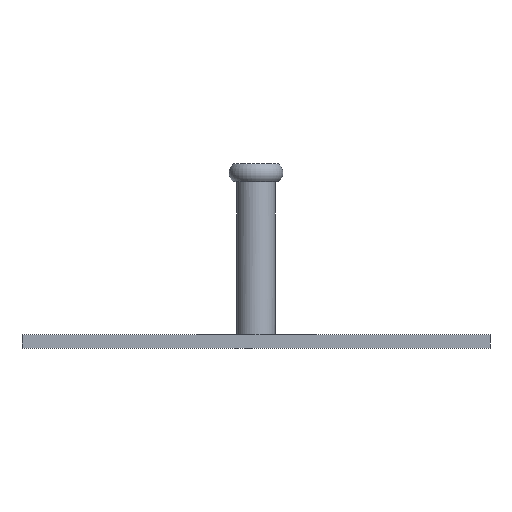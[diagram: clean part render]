
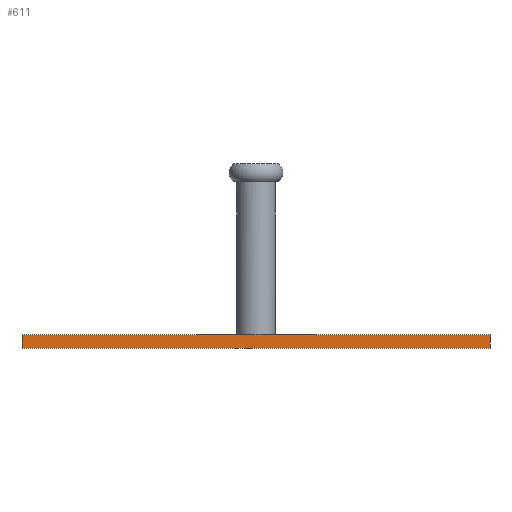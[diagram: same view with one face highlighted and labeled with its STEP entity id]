
A CAD part, front view. The second image highlights one B-rep face of the part: STEP entity #611.
In plain terms, the highlighted planar face has unit normal (0, -1, 0).
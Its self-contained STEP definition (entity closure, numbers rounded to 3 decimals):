
#328=LINE('',#1775,#356);
#333=LINE('',#2143,#361);
#334=LINE('',#2145,#362);
#356=VECTOR('',#1592,1.);
#361=VECTOR('',#1599,1.);
#362=VECTOR('',#1602,1.);
#470=B_SPLINE_CURVE_WITH_KNOTS('',1,(#2147,#2148),.UNSPECIFIED.,.F.,.F.,
(2,2),(0.,1.),.UNSPECIFIED.);
#611=ADVANCED_FACE('',(#661),#637,.T.);
#637=PLANE('',#1546);
#661=FACE_OUTER_BOUND('',#700,.T.);
#700=EDGE_LOOP('',(#833,#834,#835,#836));
#833=ORIENTED_EDGE('',*,*,#1408,.T.);
#834=ORIENTED_EDGE('',*,*,#1342,.T.);
#835=ORIENTED_EDGE('',*,*,#1409,.F.);
#836=ORIENTED_EDGE('',*,*,#1410,.F.);
#1150=VERTEX_POINT('',#1776);
#1151=VERTEX_POINT('',#1777);
#1215=VERTEX_POINT('',#2141);
#1216=VERTEX_POINT('',#2146);
#1342=EDGE_CURVE('',#1150,#1151,#328,.T.);
#1408=EDGE_CURVE('',#1215,#1150,#333,.T.);
#1409=EDGE_CURVE('',#1216,#1151,#334,.T.);
#1410=EDGE_CURVE('',#1215,#1216,#470,.T.);
#1546=AXIS2_PLACEMENT_3D('',#2149,#1603,#1604);
#1592=DIRECTION('',(1.,0.,0.));
#1599=DIRECTION('',(0.,0.,-1.));
#1602=DIRECTION('',(0.,0.,-1.));
#1603=DIRECTION('',(0.,-1.,0.));
#1604=DIRECTION('',(0.,0.,1.));
#1775=CARTESIAN_POINT('',(0.,-39.655,9.425));
#1776=CARTESIAN_POINT('',(-52.05,-39.655,9.425));
#1777=CARTESIAN_POINT('',(52.05,-39.655,9.425));
#2141=CARTESIAN_POINT('',(-52.05,-39.655,12.425));
#2143=CARTESIAN_POINT('',(-52.05,-39.655,12.425));
#2145=CARTESIAN_POINT('',(52.05,-39.655,12.425));
#2146=CARTESIAN_POINT('',(52.05,-39.655,12.425));
#2147=CARTESIAN_POINT('',(-52.05,-39.655,12.425));
#2148=CARTESIAN_POINT('',(52.05,-39.655,12.425));
#2149=CARTESIAN_POINT('',(0.,-39.655,12.425));
